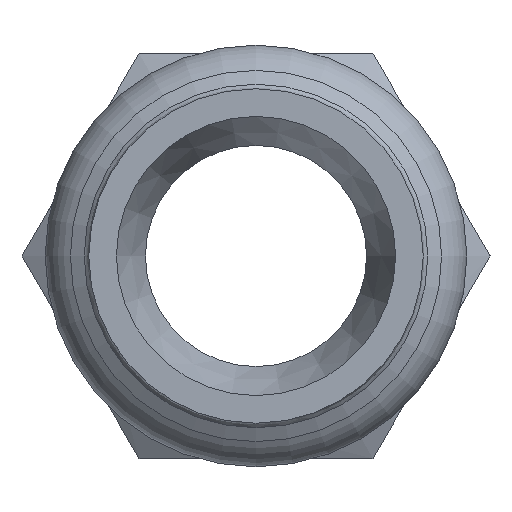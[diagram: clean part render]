
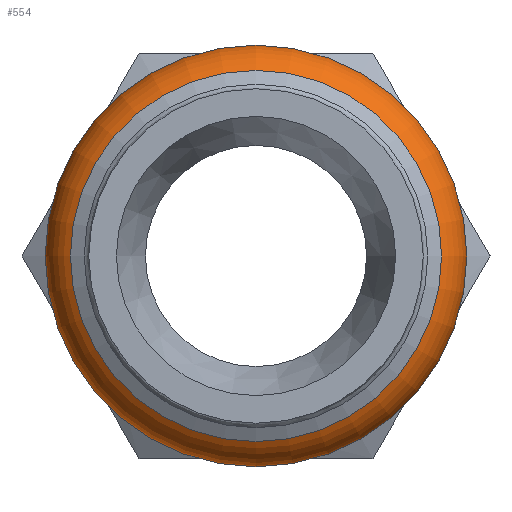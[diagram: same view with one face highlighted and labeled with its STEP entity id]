
A CAD part, left-side view. The second image highlights one B-rep face of the part: STEP entity #554.
In plain terms, the highlighted toroidal (fillet/blend) face has major radius 8.7 mm and minor radius 2.75 mm.
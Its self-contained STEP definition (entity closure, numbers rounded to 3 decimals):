
#160=CARTESIAN_POINT('',(-34.352,9.44,0.));
#161=VERTEX_POINT('',#160);
#162=CARTESIAN_POINT('',(-34.352,0.,0.0));
#163=DIRECTION('',(1.0,0.0,0.0));
#164=DIRECTION('',(0.0,-1.0,0.0));
#165=AXIS2_PLACEMENT_3D('',#162,#163,#164);
#166=CIRCLE('',#165,9.44);
#167=EDGE_CURVE('',#161,#161,#166,.T.);
#304=CARTESIAN_POINT('',(-39.382,10.075,0.0));
#305=VERTEX_POINT('',#304);
#306=CARTESIAN_POINT('',(-39.382,0.,0.0));
#307=DIRECTION('',(1.0,0.0,0.0));
#308=DIRECTION('',(0.0,1.0,0.0));
#309=AXIS2_PLACEMENT_3D('',#306,#307,#308);
#310=CIRCLE('',#309,10.075);
#311=EDGE_CURVE('',#305,#305,#310,.T.);
#543=CARTESIAN_POINT('',(-37.,0.,0.0));
#544=DIRECTION('',(1.0,0.,0.0));
#545=DIRECTION('',(0.0,0.0,-1.0));
#546=AXIS2_PLACEMENT_3D('',#543,#544,#545);
#547=TOROIDAL_SURFACE('',#546,8.7,2.75);
#548=ORIENTED_EDGE('',*,*,#311,.T.);
#549=EDGE_LOOP('',(#548));
#550=FACE_OUTER_BOUND('',#549,.T.);
#551=ORIENTED_EDGE('',*,*,#167,.F.);
#552=EDGE_LOOP('',(#551));
#553=FACE_BOUND('',#552,.T.);
#554=ADVANCED_FACE('',(#550,#553),#547,.T.);
